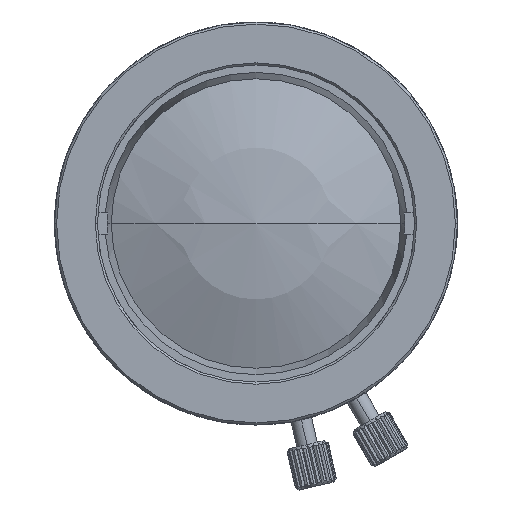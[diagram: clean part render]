
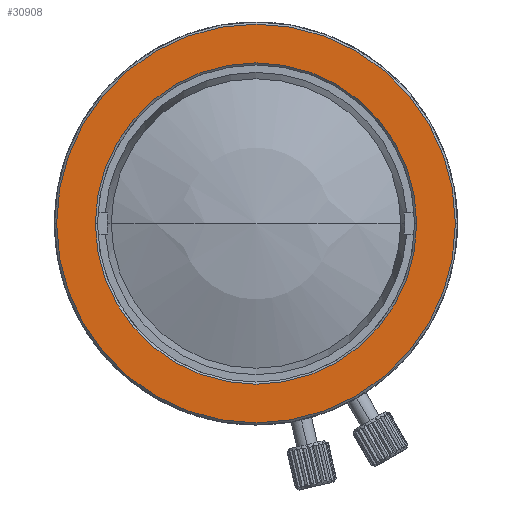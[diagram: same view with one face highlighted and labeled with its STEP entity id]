
A CAD part, left-side view. The second image highlights one B-rep face of the part: STEP entity #30908.
In plain terms, the highlighted planar face has unit normal (-1, 0, 0).
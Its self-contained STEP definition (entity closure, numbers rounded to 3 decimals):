
#375=CARTESIAN_POINT('',(-19.05,0.,0.));
#376=DIRECTION('',(1.,0.,0.));
#377=DIRECTION('',(0.,-1.,0.));
#378=AXIS2_PLACEMENT_3D('',#375,#376,#377);
#380=CARTESIAN_POINT('',(-19.05,0.,0.));
#381=DIRECTION('',(1.,0.,0.));
#382=DIRECTION('',(0.,1.,0.));
#383=AXIS2_PLACEMENT_3D('',#380,#381,#382);
#385=CARTESIAN_POINT('',(-19.05,0.,0.));
#386=DIRECTION('',(-1.,0.,0.));
#387=DIRECTION('',(0.,-1.,0.));
#388=AXIS2_PLACEMENT_3D('',#385,#386,#387);
#390=CARTESIAN_POINT('',(-19.05,0.,0.));
#391=DIRECTION('',(-1.,0.,0.));
#392=DIRECTION('',(0.,1.,0.));
#393=AXIS2_PLACEMENT_3D('',#390,#391,#392);
#28697=CARTESIAN_POINT('',(-19.05,-15.15,0.));
#28698=CARTESIAN_POINT('',(-19.05,15.15,0.));
#28699=VERTEX_POINT('',#28697);
#28700=VERTEX_POINT('',#28698);
#28701=CARTESIAN_POINT('',(-19.05,-18.8,0.));
#28702=CARTESIAN_POINT('',(-19.05,18.8,0.));
#28703=VERTEX_POINT('',#28701);
#28704=VERTEX_POINT('',#28702);
#30893=CARTESIAN_POINT('',(-19.05,0.,0.));
#30894=DIRECTION('',(1.,0.,0.));
#30895=DIRECTION('',(0.,-1.,0.));
#30896=AXIS2_PLACEMENT_3D('',#30893,#30894,#30895);
#30897=PLANE('',#30896);
#30898=ORIENTED_EDGE('',*,*,#30886,.T.);
#30899=ORIENTED_EDGE('',*,*,#30875,.T.);
#30900=EDGE_LOOP('',(#30898,#30899));
#30901=FACE_OUTER_BOUND('',#30900,.F.);
#30903=ORIENTED_EDGE('',*,*,#30902,.T.);
#30905=ORIENTED_EDGE('',*,*,#30904,.T.);
#30906=EDGE_LOOP('',(#30903,#30905));
#30907=FACE_BOUND('',#30906,.F.);
#379=CIRCLE('',#378,18.8);
#384=CIRCLE('',#383,18.8);
#389=CIRCLE('',#388,15.15);
#394=CIRCLE('',#393,15.15);
#30875=EDGE_CURVE('',#28704,#28703,#384,.T.);
#30886=EDGE_CURVE('',#28703,#28704,#379,.T.);
#30902=EDGE_CURVE('',#28699,#28700,#389,.T.);
#30904=EDGE_CURVE('',#28700,#28699,#394,.T.);
#30908=ADVANCED_FACE('',(#30901,#30907),#30897,.F.);
